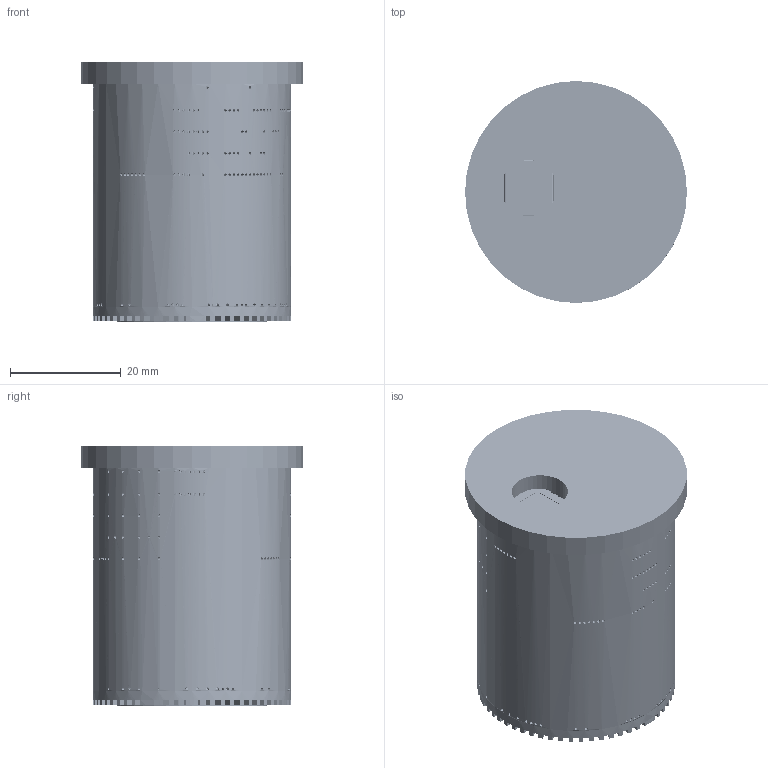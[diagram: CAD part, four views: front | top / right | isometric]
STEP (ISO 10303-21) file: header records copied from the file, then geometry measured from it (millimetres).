
FILE_DESCRIPTION(('Open CASCADE Model'),'2;1');
FILE_NAME('Open CASCADE Shape Model','2026-11-25T16:10:11',('Author'),( 'Open CASCADE'),'Open CASCADE STEP processor 7.8','Open CASCADE 7.8' ,'Unknown');
FILE_SCHEMA(('AUTOMOTIVE_DESIGN { 1 0 10303 214 1 1 1 1 }'));
Length unit declared in the file: millimetre
Products named in the file (17): 4d9c5e4e-e8e2-11f1-9939-3ea5e9b9197e; aft_end_board; battery_holder; battery_floor_plate; activation_interface; spacer_activation_interface_wakeup_board; wakeup_board; spacer_wakeup_board_power_board; power_board; spacer_power_board_companion_compute; companion_compute; spacer_companion_compute_camera_module; camera_module; core_sleeve; nose_cap; optic_insert; aft_end_cap
Assembly tree (16 placements, depth 2):
  4d9c5e4e-e8e2-11f1-9939-3ea5e9b9197e
    aft_end_board
    battery_holder
    battery_floor_plate
    activation_interface
    spacer_activation_interface_wakeup_board
    wakeup_board
    spacer_wakeup_board_power_board
    power_board
    spacer_power_board_companion_compute
    companion_compute
    spacer_companion_compute_camera_module
    camera_module
    core_sleeve
    nose_cap
    optic_insert
    aft_end_cap
Bounding box: 40 x 40 x 46.75 mm (x, y, z)
Volume: 30747.8 mm3; surface area: 46806.1 mm2
Topology: 1887 solids, 1887 shells, 27139 faces, 69073 edges, 45626 vertices
Faces by surface type: plane 18590, cylinder 7693, sphere 650, bspline 80, revolution 74, extrusion 32, cone 12, torus 8
Full cylindrical faces by diameter (mm): 0.125 x1, 0.163 x5, 0.188 x2, 0.2 x1, 0.25 x3, 0.3 x9, 0.5 x270, 0.625 x3, 0.8 x3, 0.812 x1, 1 x4, 1.2 x6, 1.25 x1, 1.55 x3, 1.6 x3, 1.8 x22, 2.2 x15, 3 x6, 3.5 x3, 10.1 x2, 11.7 x1, 27.2 x2, 27.8 x1, 34.2 x1, 35.8 x2, 37.88 x1, 38 x1, 40 x1
Entity records: 1761996 total; most frequent: CARTESIAN_POINT 391908, DIRECTION 259184, VECTOR 168231, LINE 168199, ORIENTED_EDGE 134600, PCURVE 134598, DEFINITIONAL_REPRESENTATION 134598, EDGE_CURVE 67299
